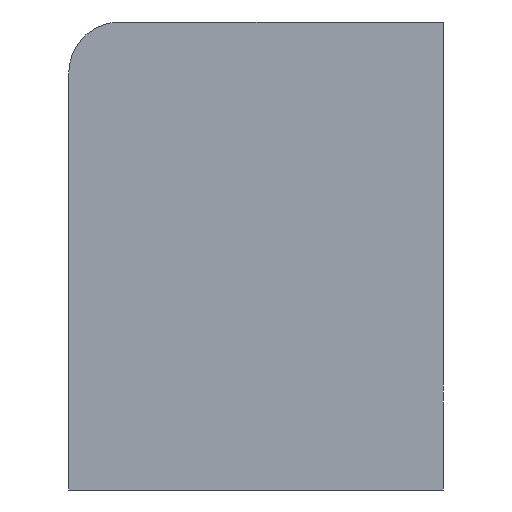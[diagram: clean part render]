
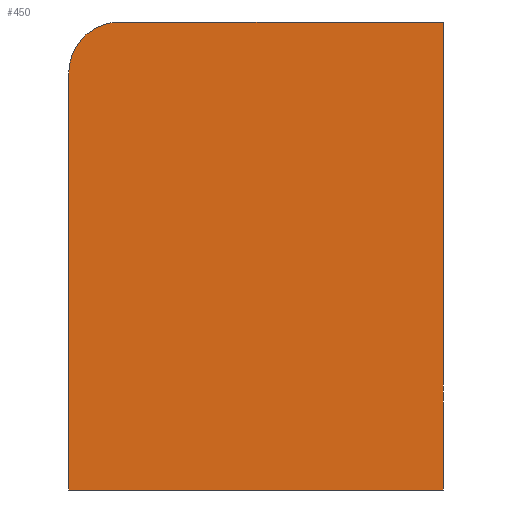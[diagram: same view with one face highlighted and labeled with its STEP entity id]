
A CAD part, left-side view. The second image highlights one B-rep face of the part: STEP entity #450.
In plain terms, the highlighted planar face has unit normal (-1, 0, 0).
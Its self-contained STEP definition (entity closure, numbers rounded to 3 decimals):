
#233=CARTESIAN_POINT('Vertex',(0.,0.,110.)) ;
#236=CARTESIAN_POINT('Line Origine',(0.,0.,55.)) ;
#240=CARTESIAN_POINT('Vertex',(0.,0.,0.)) ;
#329=CARTESIAN_POINT('Vertex',(0.,88.,0.)) ;
#332=CARTESIAN_POINT('Line Origine',(0.,88.,49.)) ;
#336=CARTESIAN_POINT('Vertex',(0.,88.,98.)) ;
#396=CARTESIAN_POINT('Line Origine',(0.,44.,0.)) ;
#414=CARTESIAN_POINT('Axis2P3D Location',(0.,76.,98.)) ;
#418=CARTESIAN_POINT('Vertex',(0.,76.,110.)) ;
#433=CARTESIAN_POINT('Axis2P3D Location',(0.,88.,0.)) ;
#438=CARTESIAN_POINT('Line Origine',(0.,38.,110.)) ;
#237=DIRECTION('Vector Direction',(0.,0.,1.)) ;
#333=DIRECTION('Vector Direction',(0.,0.,1.)) ;
#397=DIRECTION('Vector Direction',(0.,-1.,0.)) ;
#415=DIRECTION('Axis2P3D Direction',(-1.,0.,0.)) ;
#434=DIRECTION('Axis2P3D Direction',(-1.,0.,0.)) ;
#435=DIRECTION('Axis2P3D XDirection',(0.,-1.,0.)) ;
#439=DIRECTION('Vector Direction',(0.,1.,0.)) ;
#416=AXIS2_PLACEMENT_3D('Circle Axis2P3D',#414,#415,$) ;
#436=AXIS2_PLACEMENT_3D('Plane Axis2P3D',#433,#434,#435) ;
#444=ORIENTED_EDGE('',*,*,#242,.T.) ;
#445=ORIENTED_EDGE('',*,*,#442,.T.) ;
#446=ORIENTED_EDGE('',*,*,#420,.T.) ;
#447=ORIENTED_EDGE('',*,*,#338,.F.) ;
#448=ORIENTED_EDGE('',*,*,#400,.T.) ;
#238=VECTOR('Line Direction',#237,1.) ;
#334=VECTOR('Line Direction',#333,1.) ;
#398=VECTOR('Line Direction',#397,1.) ;
#440=VECTOR('Line Direction',#439,1.) ;
#450=ADVANCED_FACE('PartBody',(#449),#437,.T.) ;
#417=CIRCLE('generated circle',#416,12.) ;
#242=EDGE_CURVE('',#241,#234,#239,.T.) ;
#338=EDGE_CURVE('',#330,#337,#335,.T.) ;
#400=EDGE_CURVE('',#330,#241,#399,.T.) ;
#420=EDGE_CURVE('',#419,#337,#417,.T.) ;
#442=EDGE_CURVE('',#234,#419,#441,.T.) ;
#443=EDGE_LOOP('',(#444,#445,#446,#447,#448)) ;
#449=FACE_OUTER_BOUND('',#443,.T.) ;
#239=LINE('Line',#236,#238) ;
#335=LINE('Line',#332,#334) ;
#399=LINE('Line',#396,#398) ;
#441=LINE('Line',#438,#440) ;
#437=PLANE('',#436) ;
#234=VERTEX_POINT('',#233) ;
#241=VERTEX_POINT('',#240) ;
#330=VERTEX_POINT('',#329) ;
#337=VERTEX_POINT('',#336) ;
#419=VERTEX_POINT('',#418) ;
